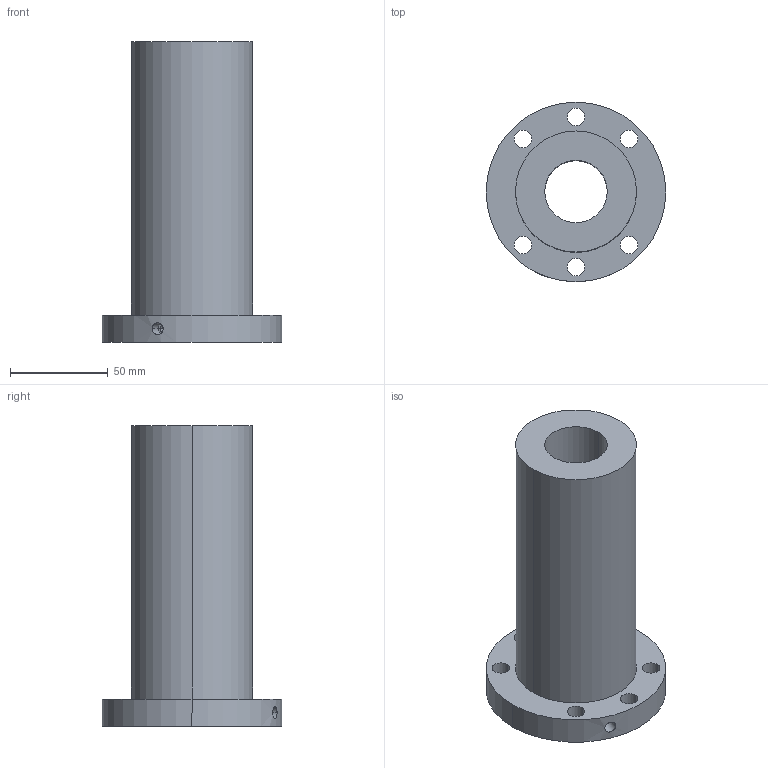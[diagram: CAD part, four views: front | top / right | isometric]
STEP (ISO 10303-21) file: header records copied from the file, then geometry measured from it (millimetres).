
FILE_DESCRIPTION((''),'2;1');
FILE_NAME('32-12K5_635','2008-04-10T',('yanyu'),(''),'PRO/ENGINEER BY PARAMETRIC TECHNOLOGY CORPORATION, 2005070','PRO/ENGINEER BY PARAMETRIC TECHNOLOGY CORPORATION, 2005070','');
FILE_SCHEMA(('CONFIG_CONTROL_DESIGN'));
Length unit declared in the file: millimetre
Products named in the file (1): 32-12K5_635
Bounding box: 92 x 92 x 154 mm (x, y, z)
Volume: 386036.1 mm3; surface area: 60497.5 mm2
Topology: 1 solids, 1 shells, 26 faces, 66 edges, 44 vertices
Faces by surface type: cylinder 22, plane 4
Entity records: 922 total; most frequent: CARTESIAN_POINT 186, DIRECTION 154, ORIENTED_EDGE 132, AXIS2_PLACEMENT_3D 66, EDGE_CURVE 66, VERTEX_POINT 44, EDGE_LOOP 44, CIRCLE 40
